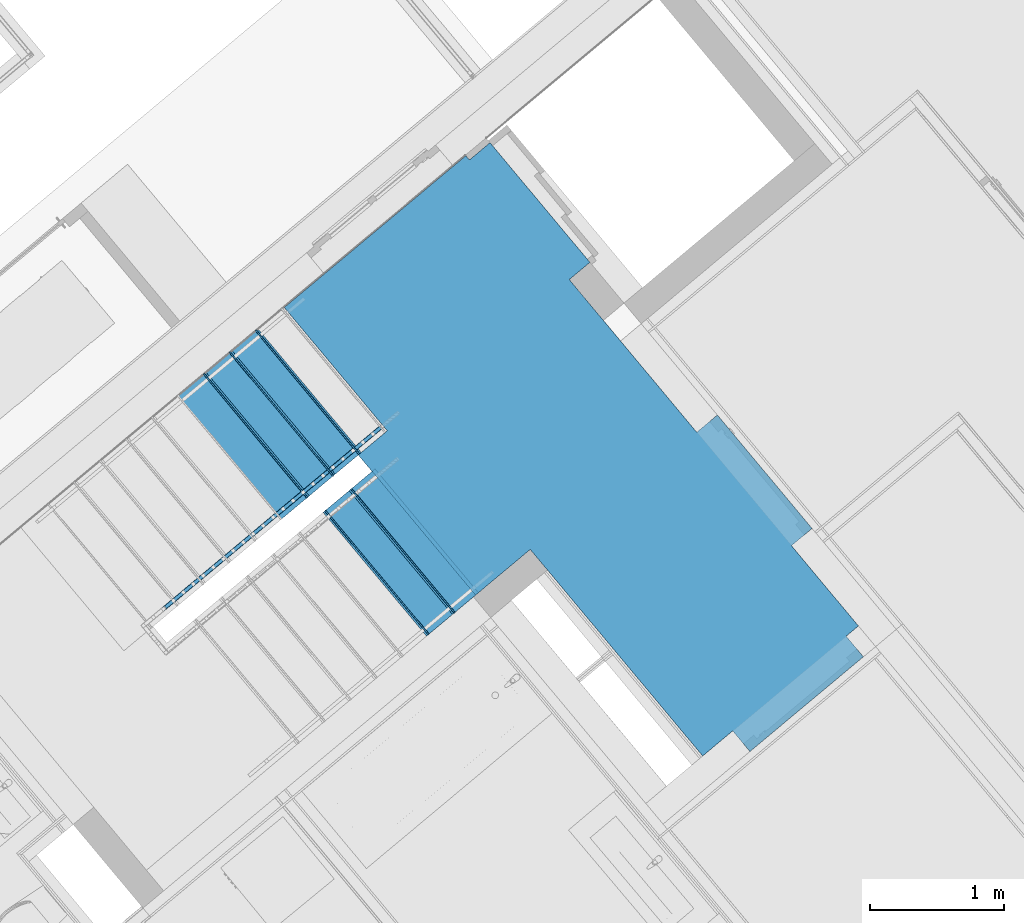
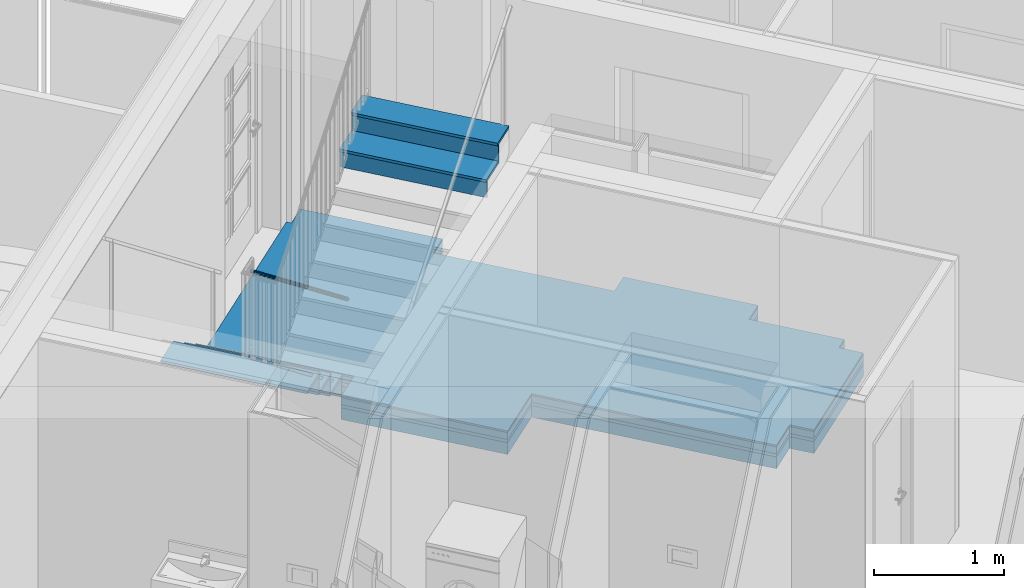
# One storey, part 34 of 67: 16 building element parts, 3 elements without a shape of their own.
"""IFC4 building model written with IfcOpenShell, lengths in metres."""

from ifc_helpers import new_model, entity, si_unit, converted_unit, derived_unit, direction, frame, origin_with_axes, place, context, subcontext, project, spatial, polygons, material, type_object, element, aggregate, save


model = new_model("IFC4")

# Units and contexts
model_context = context("Model", 3, precision=1e-05, world=origin_with_axes(), true_north=direction((0.0, 1.0)))
body_context = subcontext(model_context, "Body", "Model", "MODEL_VIEW")
ifc_project = project(units=[si_unit("LENGTHUNIT", "METRE"), si_unit("AREAUNIT", "SQUARE_METRE"), si_unit("VOLUMEUNIT", "CUBIC_METRE"), converted_unit("PLANEANGLEUNIT", "DEGREE", entity("IfcPlaneAngleMeasure", 0.0174532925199), si_unit("PLANEANGLEUNIT", "RADIAN"), dimensions=[0, 0, 0, 0, 0, 0, 0]), converted_unit("TIMEUNIT", "Year", entity("IfcTimeMeasure", 31556926.0), si_unit("TIMEUNIT", "SECOND"), dimensions=[0, 0, 1, 0, 0, 0, 0]), si_unit("MASSUNIT", "GRAM", prefix="KILO"), si_unit("THERMODYNAMICTEMPERATUREUNIT", "DEGREE_CELSIUS"), si_unit("LUMINOUSINTENSITYUNIT", "LUMEN"), si_unit("ENERGYUNIT", "JOULE", prefix="MEGA"), derived_unit("THERMALCONDUCTANCEUNIT", [(si_unit("POWERUNIT", "WATT"), 1), (si_unit("LENGTHUNIT", "METRE"), -1), (si_unit("THERMODYNAMICTEMPERATUREUNIT", "KELVIN"), -1)]), derived_unit("SPECIFICHEATCAPACITYUNIT", [(si_unit("ENERGYUNIT", "JOULE"), 1), (si_unit("MASSUNIT", "GRAM", prefix="KILO"), -1), (si_unit("THERMODYNAMICTEMPERATUREUNIT", "KELVIN"), -1)]), derived_unit("MASSDENSITYUNIT", [(si_unit("MASSUNIT", "GRAM", prefix="KILO"), 1), (si_unit("VOLUMEUNIT", "CUBIC_METRE"), -1)])], contexts=[model_context])

# Site, building, storey
site_placement = place(None, frame((-0.00153261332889, -0.00661245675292, 0.0), z_axis=(0.0, 0.0, 1.0), x_axis=(1.0, 0.0, 0.0)))
site = spatial("IfcSite", under=ifc_project, at=site_placement, Name="Site", CompositionType="ELEMENT")
building_placement = place(site_placement, origin_with_axes())
building = spatial("IfcBuilding", under=site, at=building_placement, Name="Building", CompositionType="ELEMENT")
storey_placement = place(building_placement, frame((0.0, 0.0, -0.22), z_axis=(0.0, 0.0, 1.0), x_axis=(1.0, 0.0, 0.0)))
storey = spatial("IfcBuildingStorey", under=building, at=storey_placement, Name="EG", CompositionType="ELEMENT", Elevation=-0.22)

# Railing, building element parts
railing_type = type_object("IfcRailingType", Name="Geländerart", PredefinedType="NOTDEFINED")
railing_placement = place(storey_placement, frame((-0.398547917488, 23.8355657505, 0.05), z_axis=(0.0, 0.0, 1.0), x_axis=(1.0, 0.0, 0.0)))
railing = element("IfcRailing", 1, at=railing_placement, inside=storey, type_object=railing_type, Name="Geländer - 001", PredefinedType="NOTDEFINED")
ifc_material_1 = material(Name="BEKLEIDUNG")
building_element_part_1_placement = place(railing_placement, origin_with_axes())
building_element_part_1 = element("IfcBuildingElementPart", 2, at=building_element_part_1_placement, material=ifc_material_1, Name="BEKLEIDUNG", PredefinedType="NOTDEFINED", context=body_context, shape_type="Tessellation", body=[
    polygons([(-0.0295187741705, 0.0209453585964, 0.88817063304), (-0.0284358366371, 0.0221471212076, 0.890224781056), (-1.65968848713, -1.34078287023, 2.5475849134), (-1.66154123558, -1.34262781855, 2.54631289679), (-0.0308939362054, 0.0200933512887, 0.886116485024), (-0.0325195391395, 0.0196169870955, 0.884124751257), (-0.03434618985, 0.0195307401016, 0.88225594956), (-0.0363183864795, 0.0198372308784, 0.880566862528), (-0.0383762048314, 0.0205271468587, 0.879108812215), (-0.0404571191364, 0.0215795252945, 0.877926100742), (-0.0424979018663, 0.0229623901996, 0.877054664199), (-0.0444365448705, 0.0246337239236, 0.876520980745), (-0.0462141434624, 0.026542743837, 0.87634126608), (-0.0477766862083, 0.0286314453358, 0.876520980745), (-0.0490766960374, 0.030836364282, 0.877054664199), (-0.0500746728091, 0.0330905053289, 0.877926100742), (-0.050740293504, 0.0353253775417, 0.879108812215), (-0.0510533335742, 0.0374730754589, 0.880566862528), (-0.0510042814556, 0.0394683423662, 0.88225594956), (-0.0505946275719, 0.0412505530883, 0.884124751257), (-0.0498368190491, 0.0427655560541, 0.886116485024), (-0.0487538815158, 0.0439673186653, 0.88817063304), (-0.0473787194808, 0.0448193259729, 0.890224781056), (-0.0457531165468, 0.0452956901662, 0.892216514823), (-0.0439264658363, 0.04538193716, 0.89408531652), (-0.0419542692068, 0.0450754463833, 0.895774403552), (-0.0398964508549, 0.044385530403, 0.897232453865), (-0.0378155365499, 0.0433331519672, 0.898415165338), (-0.03577475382, 0.0419502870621, 0.899286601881), (-0.0338361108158, 0.0402789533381, 0.899820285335), (-0.0320585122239, 0.0383699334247, 0.9), (-0.030495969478, 0.0362812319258, 0.899820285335), (-0.0291959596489, 0.0340763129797, 0.899286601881), (-0.0281979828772, 0.0318221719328, 0.898415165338), (-0.0275323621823, 0.02958729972, 0.897232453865), (-0.0272193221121, 0.0274396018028, 0.895774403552), (-0.0272683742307, 0.0254443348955, 0.89408531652), (-0.0276780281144, 0.0236621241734, 0.892216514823), (-1.658184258, -1.33864422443, 2.54881828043), (-1.65707425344, -1.33627686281, 2.54997552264), (-1.65639220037, -1.33375271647, 2.55102147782), (-1.65615882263, -1.33114848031, 2.55192436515), (-1.65638121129, -1.32854328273, 2.55265675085), (-1.65705260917, -1.32601628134, 2.55319638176), (-1.6581526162, -1.3236442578, 2.55352686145), (-1.65964780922, -1.32149928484, 2.55363814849), (-1.66149275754, -1.31964653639, 2.55352686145), (-1.66363140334, -1.31814230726, 2.55319638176), (-1.66599876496, -1.31703230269, 2.55265675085), (-1.6685229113, -1.31635024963, 2.55192436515), (-1.67112714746, -1.31611687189, 2.55102147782), (-1.67373234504, -1.31633926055, 2.54997552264), (-1.67625934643, -1.31701065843, 2.54881828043), (-1.67863136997, -1.31811066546, 2.5475849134), (-1.68077634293, -1.31960585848, 2.54631289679), (-1.68262909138, -1.3214508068, 2.54504088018), (-1.68413332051, -1.3235894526, 2.54380751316), (-1.68524332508, -1.32595681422, 2.54265027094), (-1.68592537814, -1.32848096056, 2.54160431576), (-1.68615875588, -1.33108519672, 2.54070142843), (-1.68593636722, -1.3336903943, 2.53996904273), (-1.68526496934, -1.33621739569, 2.53942941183), (-1.68416496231, -1.33858941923, 2.53909893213), (-1.68266976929, -1.34073439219, 2.53898764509), (-1.68082482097, -1.34258714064, 2.53909893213), (-1.67868617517, -1.34409136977, 2.53942941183), (-1.67631881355, -1.34520137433, 2.53996904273), (-1.67379466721, -1.3458834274, 2.54070142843), (-1.67119043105, -1.34611680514, 2.54160431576), (-1.66858523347, -1.34589441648, 2.54265027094), (-1.66605823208, -1.3452230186, 2.54380751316), (-1.66368620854, -1.34412301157, 2.54504088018)], [[[1, 2, 3, 4]], [[1, 5, 6, 7, 8, 9, 10, 11, 12, 13, 14, 15, 16, 17, 18, 19, 20, 21, 22, 23, 24, 25, 26, 27, 28, 29, 30, 31, 32, 33, 34, 35, 36, 37, 38, 2]], [[2, 38, 39, 3]], [[4, 3, 39, 40, 41, 42, 43, 44, 45, 46, 47, 48, 49, 50, 51, 52, 53, 54, 55, 56, 57, 58, 59, 60, 61, 62, 63, 64, 65, 66, 67, 68, 69, 70, 71, 72]], [[5, 1, 4, 72]], [[6, 5, 72, 71]], [[7, 6, 71, 70]], [[8, 7, 70, 69]], [[9, 8, 69, 68]], [[10, 9, 68, 67]], [[11, 10, 67, 66]], [[12, 11, 66, 65]], [[13, 12, 65, 64]], [[14, 13, 64, 63]], [[15, 14, 63, 62]], [[16, 15, 62, 61]], [[17, 16, 61, 60]], [[18, 17, 60, 59]], [[19, 18, 59, 58]], [[20, 19, 58, 57]], [[21, 20, 57, 56]], [[22, 21, 56, 55]], [[23, 22, 55, 54]], [[24, 23, 54, 53]], [[25, 24, 53, 52]], [[26, 25, 52, 51]], [[27, 26, 51, 50]], [[28, 27, 50, 49]], [[29, 28, 49, 48]], [[30, 29, 48, 47]], [[31, 30, 47, 46]], [[32, 31, 46, 45]], [[33, 32, 45, 44]], [[34, 33, 44, 43]], [[35, 34, 43, 42]], [[36, 35, 42, 41]], [[37, 36, 41, 40]], [[38, 37, 40, 39]]], closed=True),
])
building_element_part_2_placement = place(railing_placement, origin_with_axes())
building_element_part_2 = element("IfcBuildingElementPart", 3, at=building_element_part_2_placement, material=ifc_material_1, Name="BEKLEIDUNG", PredefinedType="NOTDEFINED", context=body_context, shape_type="Tessellation", body=[
    polygons([(-0.0341749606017, 0.0528904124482, 0.0798578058), (-0.0459713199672, 0.0430344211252, 0.0601421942), (-1.67725492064, -1.31992142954, 1.71753377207), (-1.65806995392, -1.30389217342, 1.7297425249), (-0.0181457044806, 0.0337054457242, 0.0798578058), (-0.029942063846, 0.0238494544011, 0.0601421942), (-1.66122566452, -1.33910639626, 1.71753377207), (-1.6420406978, -1.32307714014, 1.7297425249)], [[[1, 2, 3, 4]], [[1, 5, 6, 2]], [[2, 6, 7, 3]], [[4, 3, 7, 8]], [[5, 1, 4, 8]], [[6, 5, 8, 7]]], closed=True),
])
aggregate(railing, [building_element_part_1, building_element_part_2])

# Stair, building element parts
stair_type = type_object("IfcStairType", Name="Treppentyp", PredefinedType="NOTDEFINED")
stair_placement = place(storey_placement, frame((-0.972083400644, 24.9200947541, 0.05), z_axis=(0.0, 0.0, 1.0), x_axis=(1.0, 0.0, 0.0)))
stair = element("IfcStair", 4, at=stair_placement, inside=storey, type_object=stair_type, Name="Treppe - 001", PredefinedType="NOTDEFINED")
building_element_part_3_placement = place(stair_placement, origin_with_axes())
building_element_part_3 = element("IfcBuildingElementPart", 5, at=building_element_part_3_placement, material=ifc_material_1, Name="BEKLEIDUNG", PredefinedType="NOTDEFINED", context=body_context, shape_type="Tessellation", body=[
    polygons([(-0.400526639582, -0.334644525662, 0.329117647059), (-0.408200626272, -0.341056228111, 0.329117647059), (0.361203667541, -1.26193463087, 0.329117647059), (0.368877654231, -1.25552292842, 0.329117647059), (-0.400526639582, -0.334644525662, 0.177058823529), (-0.408200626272, -0.341056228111, 0.177058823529), (0.361203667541, -1.26193463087, 0.177058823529), (0.368877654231, -1.25552292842, 0.177058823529)], [[[1, 2, 3, 4]], [[1, 5, 6, 2]], [[2, 6, 7, 3]], [[4, 3, 7, 8]], [[5, 1, 4, 8]], [[6, 5, 8, 7]]], closed=True),
])
building_element_part_4_placement = place(stair_placement, origin_with_axes())
building_element_part_4 = element("IfcBuildingElementPart", 6, at=building_element_part_4_placement, material=ifc_material_1, Name="BEKLEIDUNG", PredefinedType="NOTDEFINED", context=body_context, shape_type="Tessellation", body=[
    polygons([(-0.593673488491, -0.49602089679, 0.506176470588), (-0.601347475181, -0.502432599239, 0.506176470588), (0.168056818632, -1.42331100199, 0.506176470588), (0.175730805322, -1.41689929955, 0.506176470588), (-0.593673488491, -0.49602089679, 0.354117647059), (-0.601347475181, -0.502432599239, 0.354117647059), (0.168056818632, -1.42331100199, 0.354117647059), (0.175730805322, -1.41689929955, 0.354117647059)], [[[1, 2, 3, 4]], [[1, 5, 6, 2]], [[2, 6, 7, 3]], [[4, 3, 7, 8]], [[5, 1, 4, 8]], [[6, 5, 8, 7]]], closed=True),
])
building_element_part_5_placement = place(stair_placement, origin_with_axes())
building_element_part_5 = element("IfcBuildingElementPart", 7, at=building_element_part_5_placement, material=ifc_material_1, Name="BEKLEIDUNG", PredefinedType="NOTDEFINED", context=body_context, shape_type="Tessellation", body=[
    polygons([(-0.7868203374, -0.657397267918, 0.683235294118), (-0.794494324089, -0.663808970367, 0.683235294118), (-0.0250900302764, -1.58468737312, 0.683235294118), (-0.0174160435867, -1.57827567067, 0.683235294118), (-0.7868203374, -0.657397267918, 0.531176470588), (-0.794494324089, -0.663808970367, 0.531176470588), (-0.0250900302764, -1.58468737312, 0.531176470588), (-0.0174160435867, -1.57827567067, 0.531176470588)], [[[1, 2, 3, 4]], [[1, 5, 6, 2]], [[2, 6, 7, 3]], [[4, 3, 7, 8]], [[5, 1, 4, 8]], [[6, 5, 8, 7]]], closed=True),
])
building_element_part_6_placement = place(stair_placement, origin_with_axes())
building_element_part_6 = element("IfcBuildingElementPart", 8, at=building_element_part_6_placement, material=ifc_material_1, Name="BEKLEIDUNG", PredefinedType="NOTDEFINED", context=body_context, shape_type="Tessellation", body=[
    polygons([(0.877617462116, -2.60252235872, 2.80794117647), (0.885291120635, -2.59611026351, 2.80794117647), (0.115839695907, -1.67527124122, 2.80794117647), (0.108166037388, -1.68168333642, 2.80794117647), (0.877617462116, -2.60252235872, 2.65588235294), (0.885291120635, -2.59611026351, 2.65588235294), (0.115839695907, -1.67527124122, 2.65588235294), (0.108166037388, -1.68168333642, 2.65588235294)], [[[1, 2, 3, 4]], [[1, 5, 6, 2]], [[2, 6, 7, 3]], [[4, 3, 7, 8]], [[5, 1, 4, 8]], [[6, 5, 8, 7]]], closed=True),
])
building_element_part_7_placement = place(stair_placement, origin_with_axes())
building_element_part_7 = element("IfcBuildingElementPart", 9, at=building_element_part_7_placement, material=ifc_material_1, Name="BEKLEIDUNG", PredefinedType="NOTDEFINED", context=body_context, shape_type="Tessellation", body=[
    polygons([(1.07075605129, -2.44113610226, 2.985), (1.07842970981, -2.43472400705, 2.985), (0.30897828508, -1.51388498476, 2.985), (0.301304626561, -1.52029707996, 2.985), (1.07075605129, -2.44113610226, 2.83294117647), (1.07842970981, -2.43472400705, 2.83294117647), (0.30897828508, -1.51388498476, 2.83294117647), (0.301304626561, -1.52029707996, 2.83294117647)], [[[1, 2, 3, 4]], [[1, 5, 6, 2]], [[2, 6, 7, 3]], [[4, 3, 7, 8]], [[5, 1, 4, 8]], [[6, 5, 8, 7]]], closed=True),
])
building_element_part_8_placement = place(stair_placement, origin_with_axes())
building_element_part_8 = element("IfcBuildingElementPart", 10, at=building_element_part_8_placement, material=ifc_material_1, Name="BEKLEIDUNG", PredefinedType="NOTDEFINED", context=body_context, shape_type="Tessellation", body=[
    polygons([(0.380388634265, -1.24590537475, 0.329117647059), (-0.389015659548, -0.32502697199, 0.329117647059), (-0.389015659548, -0.32502697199, 0.354117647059), (0.380388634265, -1.24590537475, 0.354117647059), (0.168056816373, -1.42331100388, 0.329117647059), (-0.601347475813, -0.502432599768, 0.329117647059), (-0.601347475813, -0.502432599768, 0.354117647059), (0.168056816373, -1.42331100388, 0.354117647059)], [[[1, 2, 3, 4]], [[1, 5, 6, 2]], [[2, 6, 7, 3]], [[4, 3, 7, 8]], [[5, 1, 4, 8]], [[6, 5, 8, 7]]], closed=True),
])
building_element_part_9_placement = place(stair_placement, origin_with_axes())
building_element_part_9 = element("IfcBuildingElementPart", 11, at=building_element_part_9_placement, material=ifc_material_1, Name="BEKLEIDUNG", PredefinedType="NOTDEFINED", context=body_context, shape_type="Tessellation", body=[
    polygons([(0.187241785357, -1.40728174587, 0.506176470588), (-0.582162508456, -0.486403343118, 0.506176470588), (-0.582162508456, -0.486403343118, 0.531176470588), (0.187241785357, -1.40728174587, 0.531176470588), (-0.0250900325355, -1.58468737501, 0.506176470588), (-0.794494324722, -0.663808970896, 0.506176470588), (-0.794494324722, -0.663808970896, 0.531176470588), (-0.0250900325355, -1.58468737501, 0.531176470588)], [[[1, 2, 3, 4]], [[1, 5, 6, 2]], [[2, 6, 7, 3]], [[4, 3, 7, 8]], [[5, 1, 4, 8]], [[6, 5, 8, 7]]], closed=True),
])
building_element_part_10_placement = place(stair_placement, origin_with_axes())
building_element_part_10 = element("IfcBuildingElementPart", 12, at=building_element_part_10_placement, material=ifc_material_1, Name="BEKLEIDUNG", PredefinedType="NOTDEFINED", context=body_context, shape_type="Tessellation", body=[
    polygons([(-0.00590506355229, -1.568658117, 0.683235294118), (-0.775309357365, -0.647779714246, 0.683235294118), (-0.775309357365, -0.647779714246, 0.708235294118), (-0.00590506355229, -1.568658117, 0.708235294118), (-0.218236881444, -1.74606374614, 0.683235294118), (-0.987641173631, -0.825185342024, 0.683235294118), (-0.987641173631, -0.825185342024, 0.708235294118), (-0.218236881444, -1.74606374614, 0.708235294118)], [[[1, 2, 3, 4]], [[1, 5, 6, 2]], [[2, 6, 7, 3]], [[4, 3, 7, 8]], [[5, 1, 4, 8]], [[6, 5, 8, 7]]], closed=True),
])
building_element_part_11_placement = place(stair_placement, origin_with_axes())
building_element_part_11 = element("IfcBuildingElementPart", 13, at=building_element_part_11_placement, material=ifc_material_1, Name="BEKLEIDUNG", PredefinedType="NOTDEFINED", context=body_context, shape_type="Tessellation", body=[
    polygons([(0.0966555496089, -1.69130147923, 2.80794117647), (0.866106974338, -2.61214050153, 2.80794117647), (0.866106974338, -2.61214050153, 2.83294117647), (0.0966555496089, -1.69130147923, 2.83294117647), (0.308978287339, -1.51388498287, 2.80794117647), (1.07842971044, -2.43472400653, 2.80794117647), (1.07842971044, -2.43472400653, 2.83294117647), (0.308978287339, -1.51388498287, 2.83294117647)], [[[1, 2, 3, 4]], [[1, 5, 6, 2]], [[2, 6, 7, 3]], [[4, 3, 7, 8]], [[5, 1, 4, 8]], [[6, 5, 8, 7]]], closed=True),
])
building_element_part_12_placement = place(stair_placement, origin_with_axes())
building_element_part_12 = element("IfcBuildingElementPart", 14, at=building_element_part_12_placement, material=ifc_material_1, Name="BEKLEIDUNG", PredefinedType="NOTDEFINED", context=body_context, shape_type="Tessellation", body=[
    polygons([(0.289794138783, -1.52991522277, 2.985), (1.05924556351, -2.45075424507, 2.985), (1.05924556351, -2.45075424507, 3.01), (0.289794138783, -1.52991522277, 3.01), (0.482932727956, -1.36852896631, 2.985), (1.25238415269, -2.28936798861, 2.985), (1.25238415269, -2.28936798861, 3.01), (0.482932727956, -1.36852896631, 3.01)], [[[1, 2, 3, 4]], [[1, 5, 6, 2]], [[2, 6, 7, 3]], [[4, 3, 7, 8]], [[5, 1, 4, 8]], [[6, 5, 8, 7]]], closed=True),
])
aggregate(stair, [building_element_part_3, building_element_part_4, building_element_part_5, building_element_part_6, building_element_part_7, building_element_part_8, building_element_part_9, building_element_part_10, building_element_part_11, building_element_part_12])

# Covering, building element parts
covering_type = type_object("IfcCoveringType", Name="DE 01 Decke Wohnung/Wohnung Fließen 220", PredefinedType="NOTDEFINED")
covering_placement = place(storey_placement, frame((0.186433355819, 25.8823468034, 0.22), z_axis=(0.0, 0.0, 1.0), x_axis=(1.0, 0.0, 0.0)))
covering = element("IfcCovering", 15, at=covering_placement, inside=storey, type_object=covering_type, Name="Decke-001", PredefinedType="NOTDEFINED")
ifc_material_2 = material(Name="Fliesen")
building_element_part_13_placement = place(covering_placement, origin_with_axes())
building_element_part_13 = element("IfcBuildingElementPart", 16, at=building_element_part_13_placement, material=ifc_material_2, Name="Fliesen", PredefinedType="NOTDEFINED", context=body_context, shape_type="Tessellation", body=[
    polygons([(0.0714545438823, -3.27034813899, -0.015), (0.0714545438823, -3.27034813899, 0.0), (-0.800488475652, -2.22683976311, 0.0), (-0.800488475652, -2.22683976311, -0.015), (0.286905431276, -3.09031781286, -0.015), (0.478971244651, -2.92982796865, -0.015), (0.478971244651, -2.92982796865, 0.0), (0.286905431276, -3.09031781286, 0.0), (0.607213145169, -3.08330113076, 0.0), (1.76163589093, -4.4661866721, 0.0), (1.98506009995, -4.27967374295, 0.0), (2.11322919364, -4.43320776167, 0.0), (2.9576662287, -3.72827791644, 0.0), (2.82949713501, -3.57474389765, 0.0), (2.92064867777, -3.49865129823, 0.0), (2.42241150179, -2.90181197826, 0.0), (2.57594545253, -2.77364288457, 0.0), (1.87101560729, -1.92920584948, 0.0), (1.71748165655, -2.05737494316, 0.0), (0.769687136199, -0.922009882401, 0.0), (0.923221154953, -0.793840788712, 0.0), (0.179840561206, 0.0966564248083, 0.0), (0.0263065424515, -0.0315126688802, 0.0), (0.0, 0.0, 0.0), (-1.35152231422, -1.12932957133, 0.0), (-0.584981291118, -2.04678108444, 0.0), (-0.584981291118, -2.04678108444, -0.015), (-1.35152231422, -1.12932957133, -0.015), (0.0, 0.0, -0.015), (0.0263065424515, -0.0315126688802, -0.015), (0.179840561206, 0.0966564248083, -0.015), (0.923221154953, -0.793840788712, -0.015), (0.769687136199, -0.922009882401, -0.015), (1.71748165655, -2.05737494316, -0.015), (1.87101560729, -1.92920584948, -0.015), (2.57594545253, -2.77364288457, -0.015), (2.42241150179, -2.90181197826, -0.015), (2.92064867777, -3.49865129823, -0.015), (2.82949713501, -3.57474389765, -0.015), (2.9576662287, -3.72827791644, -0.015), (2.11322919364, -4.43320776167, -0.015), (1.98506009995, -4.27967374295, -0.015), (1.76163589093, -4.4661866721, -0.015), (0.607213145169, -3.08330113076, -0.015)], [[[1, 2, 3, 4]], [[1, 5, 6, 7, 8, 2]], [[2, 8, 7, 9, 10, 11, 12, 13, 14, 15, 16, 17, 18, 19, 20, 21, 22, 23, 24, 25, 26, 3]], [[27, 4, 3, 26]], [[5, 1, 4, 27, 28, 29, 30, 31, 32, 33, 34, 35, 36, 37, 38, 39, 40, 41, 42, 43, 44, 6]], [[6, 44, 9, 7]], [[9, 44, 43, 10]], [[10, 43, 42, 11]], [[11, 42, 41, 12]], [[12, 41, 40, 13]], [[39, 14, 13, 40]], [[14, 39, 38, 15]], [[37, 16, 15, 38]], [[16, 37, 36, 17]], [[17, 36, 35, 18]], [[34, 19, 18, 35]], [[20, 19, 34, 33]], [[20, 33, 32, 21]], [[31, 22, 21, 32]], [[30, 23, 22, 31]], [[23, 30, 29, 24]], [[28, 25, 24, 29]], [[28, 27, 26, 25]]], closed=True),
])
ifc_material_3 = material(Name="Estrich")
building_element_part_14_placement = place(covering_placement, origin_with_axes())
building_element_part_14 = element("IfcBuildingElementPart", 17, at=building_element_part_14_placement, material=ifc_material_3, Name="Estrich", PredefinedType="NOTDEFINED", context=body_context, shape_type="Tessellation", body=[
    polygons([(0.0714545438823, -3.27034813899, -0.08), (0.0714545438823, -3.27034813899, -0.015), (-0.800488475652, -2.22683976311, -0.015), (-0.800488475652, -2.22683976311, -0.08), (0.286905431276, -3.09031781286, -0.08), (0.478971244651, -2.92982796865, -0.08), (0.478971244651, -2.92982796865, -0.015), (0.286905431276, -3.09031781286, -0.015), (0.607213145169, -3.08330113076, -0.015), (1.76163589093, -4.4661866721, -0.015), (1.98506009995, -4.27967374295, -0.015), (2.11322919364, -4.43320776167, -0.015), (2.9576662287, -3.72827791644, -0.015), (2.82949713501, -3.57474389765, -0.015), (2.92064867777, -3.49865129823, -0.015), (2.42241150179, -2.90181197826, -0.015), (2.57594545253, -2.77364288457, -0.015), (1.87101560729, -1.92920584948, -0.015), (1.71748165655, -2.05737494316, -0.015), (0.769687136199, -0.922009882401, -0.015), (0.923221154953, -0.793840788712, -0.015), (0.179840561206, 0.0966564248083, -0.015), (0.0263065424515, -0.0315126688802, -0.015), (0.0, 0.0, -0.015), (-1.35152231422, -1.12932957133, -0.015), (-0.584981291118, -2.04678108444, -0.015), (-0.584981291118, -2.04678108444, -0.08), (-1.35152231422, -1.12932957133, -0.08), (0.0, 0.0, -0.08), (0.0263065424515, -0.0315126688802, -0.08), (0.179840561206, 0.0966564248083, -0.08), (0.923221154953, -0.793840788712, -0.08), (0.769687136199, -0.922009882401, -0.08), (1.71748165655, -2.05737494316, -0.08), (1.87101560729, -1.92920584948, -0.08), (2.57594545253, -2.77364288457, -0.08), (2.42241150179, -2.90181197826, -0.08), (2.92064867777, -3.49865129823, -0.08), (2.82949713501, -3.57474389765, -0.08), (2.9576662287, -3.72827791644, -0.08), (2.11322919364, -4.43320776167, -0.08), (1.98506009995, -4.27967374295, -0.08), (1.76163589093, -4.4661866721, -0.08), (0.607213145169, -3.08330113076, -0.08)], [[[1, 2, 3, 4]], [[1, 5, 6, 7, 8, 2]], [[2, 8, 7, 9, 10, 11, 12, 13, 14, 15, 16, 17, 18, 19, 20, 21, 22, 23, 24, 25, 26, 3]], [[27, 4, 3, 26]], [[5, 1, 4, 27, 28, 29, 30, 31, 32, 33, 34, 35, 36, 37, 38, 39, 40, 41, 42, 43, 44, 6]], [[6, 44, 9, 7]], [[9, 44, 43, 10]], [[10, 43, 42, 11]], [[11, 42, 41, 12]], [[12, 41, 40, 13]], [[39, 14, 13, 40]], [[14, 39, 38, 15]], [[37, 16, 15, 38]], [[16, 37, 36, 17]], [[17, 36, 35, 18]], [[34, 19, 18, 35]], [[34, 33, 20, 19]], [[20, 33, 32, 21]], [[31, 22, 21, 32]], [[30, 23, 22, 31]], [[29, 24, 23, 30]], [[24, 29, 28, 25]], [[28, 27, 26, 25]]], closed=True),
])
ifc_material_4 = material(Name="Trittschalldämmung")
building_element_part_15_placement = place(covering_placement, origin_with_axes())
building_element_part_15 = element("IfcBuildingElementPart", 18, at=building_element_part_15_placement, material=ifc_material_4, Name="Trittschalldämmung", PredefinedType="NOTDEFINED", context=body_context, shape_type="Tessellation", body=[
    polygons([(0.0714545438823, -3.27034813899, -0.11), (0.0714545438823, -3.27034813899, -0.08), (-0.800488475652, -2.22683976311, -0.08), (-0.800488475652, -2.22683976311, -0.11), (0.286905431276, -3.09031781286, -0.11), (0.478971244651, -2.92982796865, -0.11), (0.478971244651, -2.92982796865, -0.08), (0.286905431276, -3.09031781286, -0.08), (0.607213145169, -3.08330113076, -0.08), (1.76163589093, -4.4661866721, -0.08), (1.98506009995, -4.27967374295, -0.08), (2.11322919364, -4.43320776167, -0.08), (2.9576662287, -3.72827791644, -0.08), (2.82949713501, -3.57474389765, -0.08), (2.92064867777, -3.49865129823, -0.08), (2.42241150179, -2.90181197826, -0.08), (2.57594545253, -2.77364288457, -0.08), (1.87101560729, -1.92920584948, -0.08), (1.71748165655, -2.05737494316, -0.08), (0.769687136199, -0.922009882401, -0.08), (0.923221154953, -0.793840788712, -0.08), (0.179840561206, 0.0966564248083, -0.08), (0.0263065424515, -0.0315126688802, -0.08), (0.0, 0.0, -0.08), (-1.35152231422, -1.12932957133, -0.08), (-0.584981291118, -2.04678108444, -0.08), (-0.584981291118, -2.04678108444, -0.11), (-1.35152231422, -1.12932957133, -0.11), (0.0, 0.0, -0.11), (0.0263065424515, -0.0315126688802, -0.11), (0.179840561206, 0.0966564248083, -0.11), (0.923221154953, -0.793840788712, -0.11), (0.769687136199, -0.922009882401, -0.11), (1.71748165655, -2.05737494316, -0.11), (1.87101560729, -1.92920584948, -0.11), (2.57594545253, -2.77364288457, -0.11), (2.42241150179, -2.90181197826, -0.11), (2.92064867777, -3.49865129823, -0.11), (2.82949713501, -3.57474389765, -0.11), (2.9576662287, -3.72827791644, -0.11), (2.11322919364, -4.43320776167, -0.11), (1.98506009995, -4.27967374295, -0.11), (1.76163589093, -4.4661866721, -0.11), (0.607213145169, -3.08330113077, -0.11)], [[[1, 2, 3, 4]], [[1, 5, 6, 7, 8, 2]], [[2, 8, 7, 9, 10, 11, 12, 13, 14, 15, 16, 17, 18, 19, 20, 21, 22, 23, 24, 25, 26, 3]], [[27, 4, 3, 26]], [[5, 1, 4, 27, 28, 29, 30, 31, 32, 33, 34, 35, 36, 37, 38, 39, 40, 41, 42, 43, 44, 6]], [[6, 44, 9, 7]], [[9, 44, 43, 10]], [[10, 43, 42, 11]], [[11, 42, 41, 12]], [[12, 41, 40, 13]], [[39, 14, 13, 40]], [[14, 39, 38, 15]], [[37, 16, 15, 38]], [[16, 37, 36, 17]], [[17, 36, 35, 18]], [[34, 19, 18, 35]], [[34, 33, 20, 19]], [[20, 33, 32, 21]], [[31, 22, 21, 32]], [[30, 23, 22, 31]], [[29, 24, 23, 30]], [[24, 29, 28, 25]], [[28, 27, 26, 25]]], closed=True),
])
ifc_material_5 = material(Name="Schüttung")
building_element_part_16_placement = place(covering_placement, origin_with_axes())
building_element_part_16 = element("IfcBuildingElementPart", 19, at=building_element_part_16_placement, material=ifc_material_5, Name="Schüttung", PredefinedType="NOTDEFINED", context=body_context, shape_type="Tessellation", body=[
    polygons([(0.0714545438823, -3.27034813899, -0.22), (0.0714545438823, -3.27034813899, -0.11), (-0.800488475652, -2.22683976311, -0.11), (-0.800488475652, -2.22683976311, -0.22), (0.286905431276, -3.09031781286, -0.22), (0.478971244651, -2.92982796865, -0.22), (0.478971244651, -2.92982796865, -0.11), (0.286905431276, -3.09031781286, -0.11), (0.607213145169, -3.08330113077, -0.11), (1.76163589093, -4.4661866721, -0.11), (1.98506009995, -4.27967374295, -0.11), (2.11322919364, -4.43320776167, -0.11), (2.9576662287, -3.72827791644, -0.11), (2.82949713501, -3.57474389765, -0.11), (2.92064867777, -3.49865129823, -0.11), (2.42241150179, -2.90181197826, -0.11), (2.57594545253, -2.77364288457, -0.11), (1.87101560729, -1.92920584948, -0.11), (1.71748165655, -2.05737494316, -0.11), (0.769687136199, -0.922009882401, -0.11), (0.923221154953, -0.793840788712, -0.11), (0.179840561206, 0.0966564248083, -0.11), (0.0263065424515, -0.0315126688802, -0.11), (0.0, 0.0, -0.11), (-1.35152231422, -1.12932957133, -0.11), (-0.584981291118, -2.04678108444, -0.11), (-0.584981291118, -2.04678108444, -0.22), (-1.35152231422, -1.12932957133, -0.22), (0.0, 0.0, -0.22), (0.0263065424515, -0.0315126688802, -0.22), (0.179840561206, 0.0966564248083, -0.22), (0.923221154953, -0.793840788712, -0.22), (0.769687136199, -0.922009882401, -0.22), (1.71748165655, -2.05737494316, -0.22), (1.87101560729, -1.92920584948, -0.22), (2.57594545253, -2.77364288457, -0.22), (2.42241150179, -2.90181197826, -0.22), (2.92064867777, -3.49865129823, -0.22), (2.82949713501, -3.57474389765, -0.22), (2.9576662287, -3.72827791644, -0.22), (2.11322919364, -4.43320776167, -0.22), (1.98506009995, -4.27967374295, -0.22), (1.76163589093, -4.4661866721, -0.22), (0.607213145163, -3.08330113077, -0.22)], [[[1, 2, 3, 4]], [[1, 5, 6, 7, 8, 2]], [[2, 8, 7, 9, 10, 11, 12, 13, 14, 15, 16, 17, 18, 19, 20, 21, 22, 23, 24, 25, 26, 3]], [[27, 4, 3, 26]], [[5, 1, 4, 27, 28, 29, 30, 31, 32, 33, 34, 35, 36, 37, 38, 39, 40, 41, 42, 43, 44, 6]], [[7, 6, 44, 9]], [[44, 43, 10, 9]], [[43, 42, 11, 10]], [[42, 41, 12, 11]], [[12, 41, 40, 13]], [[40, 39, 14, 13]], [[14, 39, 38, 15]], [[37, 16, 15, 38]], [[37, 36, 17, 16]], [[17, 36, 35, 18]], [[34, 19, 18, 35]], [[34, 33, 20, 19]], [[20, 33, 32, 21]], [[31, 22, 21, 32]], [[30, 23, 22, 31]], [[23, 30, 29, 24]], [[29, 28, 25, 24]], [[28, 27, 26, 25]]], closed=True),
])
aggregate(covering, [building_element_part_13, building_element_part_14, building_element_part_15, building_element_part_16])

save(model, "model.ifc")
